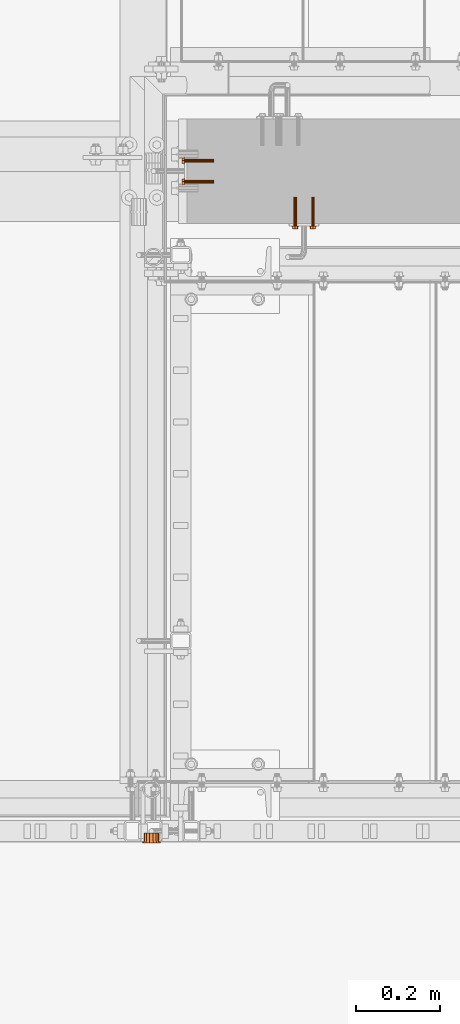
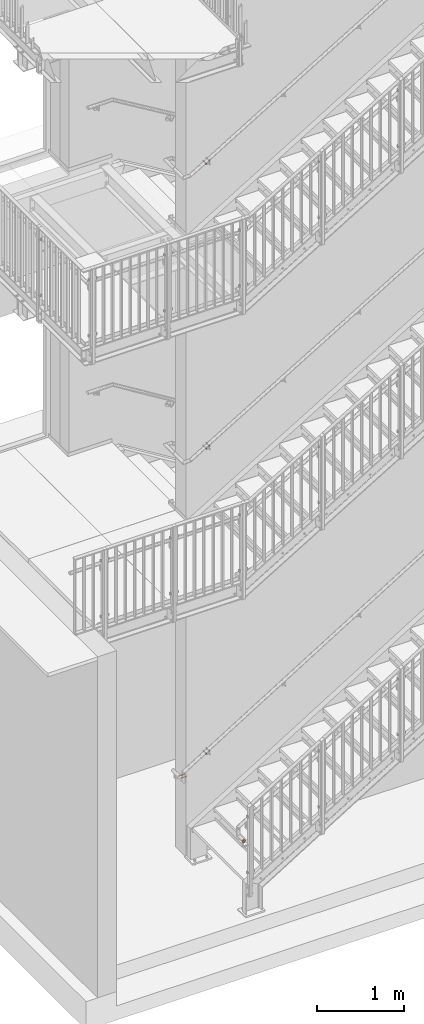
# One storey, part 400 of 410: 9 proxies.
"""IFC2X3 building model written with IfcOpenShell, lengths in millimetres."""

import ifcopenshell
import ifcopenshell.guid

model = None  # the IFC model being written
_history = None  # IfcOwnerHistory: only IFC2X3 demands one
_inside = {}  # id of a spatial element -> (the spatial element, [elements in it])
_under = {}  # id of a project, library or spatial element -> (it, [spatial elements below it])
_declared = {}  # id of a project -> (the project, [libraries it declares])
_typed = {}  # id of a type object -> (the type object, [elements of that type])
_made_of = {}  # id of a material, layer set ... -> (it, [elements and type objects made of it])


def new_model(schema):
    """Start an empty IFC model of exactly this schema.

    Asked for "IFC4X3", IfcOpenShell would pick the latest addendum, in which some entities
    have other attributes; the version numbers below select the first issue.
    IFC2X3 requires an IfcOwnerHistory on every rooted entity: one is made here for all.
    """
    global model, _history
    if schema == "IFC4X3":
        model = ifcopenshell.file(schema_version=(4, 3, 0, 0))
    else:
        model = ifcopenshell.file(schema=schema)
    _inside.clear()
    _under.clear()
    _declared.clear()
    _typed.clear()
    _made_of.clear()
    _history = None
    if model.schema == "IFC2X3":
        org = make("IfcOrganization", Name="unknown")
        user = make(
            "IfcPersonAndOrganization",
            ThePerson=make("IfcPerson", FamilyName="unknown"),
            TheOrganization=org,
        )
        app = make(
            "IfcApplication",
            ApplicationDeveloper=org,
            Version="unknown",
            ApplicationFullName="unknown",
            ApplicationIdentifier="unknown",
        )
        _history = make(
            "IfcOwnerHistory",
            OwningUser=user,
            OwningApplication=app,
            ChangeAction="ADDED",
            CreationDate=0,
        )
    return model


def make(cls, **values):
    """One entity of the class cls with the attributes given. An attribute that is None is left unset."""
    return model.create_entity(
        cls, **{name: value for name, value in values.items() if value is not None}
    )


def entity(cls, *values):
    """Any entity or typed value of the class cls, its attributes in the order of the schema. None: left unset."""
    e = model.create_entity(cls)
    for i, value in enumerate(values):
        if value is not None:
            e[i] = value
    return e


def rooted(cls, **values):
    """An entity with a GlobalId (a new one), such as an element, a storey or a relation."""
    return make(cls, GlobalId=ifcopenshell.guid.new(), OwnerHistory=_history, **values)


def si_unit(unit_type, name, prefix=None):
    """IfcSIUnit, for example si_unit("LENGTHUNIT", "METRE", prefix="MILLI")."""
    return make("IfcSIUnit", UnitType=unit_type, Prefix=prefix, Name=name)


def converted_unit(unit_type, name, factor, base, dimensions=None, offset=None):
    """IfcConversionBasedUnit, such as the inch: factor (a typed value) times the base unit."""
    return make(
        "IfcConversionBasedUnit"
        if offset is None
        else "IfcConversionBasedUnitWithOffset",
        ConversionOffset=offset,
        Dimensions=None
        if dimensions is None
        else entity("IfcDimensionalExponents", *dimensions),
        UnitType=unit_type,
        Name=name,
        ConversionFactor=make(
            "IfcMeasureWithUnit", ValueComponent=factor, UnitComponent=base
        ),
    )


def assignment(units):
    """IfcUnitAssignment: the units of a project."""
    return None if units is None else make("IfcUnitAssignment", Units=units)


def point(xyz):
    """IfcCartesianPoint."""
    return None if xyz is None else make("IfcCartesianPoint", Coordinates=xyz)


def direction(xyz):
    """IfcDirection."""
    return None if xyz is None else make("IfcDirection", DirectionRatios=xyz)


def frame(location, z_axis=None, x_axis=None):
    """IfcAxis2Placement3D, a coordinate frame: its origin and axes. An axis left out is left unset."""
    return make(
        "IfcAxis2Placement3D",
        Location=point(location),
        Axis=direction(z_axis),
        RefDirection=direction(x_axis),
    )


def origin_with_axes():
    """The frame at (0, 0, 0) with the z axis (0, 0, 1) and the x axis (1, 0, 0) written out."""
    return frame((0.0, 0.0, 0.0), z_axis=(0.0, 0.0, 1.0), x_axis=(1.0, 0.0, 0.0))


def place(relative_to, where):
    """IfcLocalPlacement: puts the frame where relative to a parent placement (None: the world)."""
    return make(
        "IfcLocalPlacement", PlacementRelTo=relative_to, RelativePlacement=where
    )


def context(
    kind, dimensions, precision=None, world=None, true_north=None, identifier=None
):
    """IfcGeometricRepresentationContext, for example the 3D "Model" context."""
    return make(
        "IfcGeometricRepresentationContext",
        ContextIdentifier=identifier,
        ContextType=kind,
        CoordinateSpaceDimension=dimensions,
        Precision=precision,
        WorldCoordinateSystem=world,
        TrueNorth=true_north,
    )


def project(units=None, contexts=None):
    """IfcProject with its units and contexts."""
    return rooted(
        "IfcProject",
        Name="project",
        RepresentationContexts=contexts,
        UnitsInContext=assignment(units),
    )


def spatial(cls, under=None, at=None, **own):
    """A site, building, storey or space (cls), placed at a placement, below another one or the project."""
    s = rooted(cls, ObjectPlacement=at, **own)
    if under is not None:
        _under.setdefault(under.id(), (under, []))[1].append(s)
    return s


def faces_of(points, faces, orient=None, outer=None):
    """IfcFace entities. A face is a list of loops; a loop is a list of indices into points, from 0.

    orient and outer hold one flag for each loop. By default every Orientation is true, the
    first loop of a face is its IfcFaceOuterBound and the others are IfcFaceBound.
    """
    made = []
    for i, loops in enumerate(faces):
        bounds = []
        for j, loop in enumerate(loops):
            is_outer = j == 0 if outer is None else outer[i][j]
            bounds.append(
                make(
                    "IfcFaceOuterBound" if is_outer else "IfcFaceBound",
                    Bound=make("IfcPolyLoop", Polygon=[points[k] for k in loop]),
                    Orientation=True if orient is None else orient[i][j],
                )
            )
        made.append(make("IfcFace", Bounds=bounds))
    return made


def faceted_brep(points, faces, orient=None, outer=None, voids=None):
    """IfcFacetedBrep: a solid bounded by flat faces; with voids (closed shells), ...WithVoids."""
    shared = [point(p) for p in points]
    hull = make("IfcClosedShell", CfsFaces=faces_of(shared, faces, orient, outer))
    if voids is None:
        return make("IfcFacetedBrep", Outer=hull)
    return make(
        "IfcFacetedBrepWithVoids",
        Outer=hull,
        Voids=[
            make(cls, CfsFaces=faces_of(shared, fs, o, b)) for cls, fs, o, b in voids
        ],
    )


def shape(context_of_items, identifier, shape_type, items):
    """IfcShapeRepresentation: the items that make up one representation, for example the "Body"."""
    return make(
        "IfcShapeRepresentation",
        ContextOfItems=context_of_items,
        RepresentationIdentifier=identifier,
        RepresentationType=shape_type,
        Items=items,
    )


def made_of(thing, what):
    """Note that an element or type object is made of a material, layer set ...; save() writes the relation."""
    if what is not None:
        _made_of.setdefault(what.id(), (what, []))[1].append(thing)
    return thing


def element(
    cls,
    number,
    at=None,
    inside=None,
    cuts=None,
    type_object=None,
    material=None,
    context=None,
    identifier="Body",
    shape_type=None,
    held_by="IfcProductDefinitionShape",
    body=None,
    shapes=None,
    **own,
):
    """One element of the class cls, such as IfcWall. Its Tag is "e" and its number.

    at: its placement. inside: the storey or other place that contains it. cuts: it is an
    opening in that element (IfcRelVoidsElement). A single representation is given by context,
    identifier, shape_type and body (its items); several are given by shapes. held_by: the class
    of the entity that holds the representations. save() writes the other relations.
    """
    e = rooted(cls, Tag="e%d" % number, ObjectPlacement=at, **own)
    if body is not None:
        shapes = [shape(context, identifier, shape_type, body)]
    if shapes is not None:
        e.Representation = make(held_by, Representations=shapes)
    if inside is not None:
        _inside.setdefault(inside.id(), (inside, []))[1].append(e)
    if cuts is not None:
        rooted(
            "IfcRelVoidsElement", RelatingBuildingElement=cuts, RelatedOpeningElement=e
        )
    if type_object is not None:
        _typed.setdefault(type_object.id(), (type_object, []))[1].append(e)
    return made_of(e, material)


def aggregate(whole, parts):
    """IfcRelAggregates: a whole, such as a stair, and the parts it consists of."""
    return rooted("IfcRelAggregates", RelatingObject=whole, RelatedObjects=parts)


def save(model, path):
    """Write the relations noted so far, then the file.

    IfcRelAggregates (storeys below a building ...), IfcRelContainedInSpatialStructure (elements
    in a storey), IfcRelDefinesByType, IfcRelAssociatesMaterial and IfcRelDeclares: one each for
    every whole, place, type object, material and project.
    """
    for whole, parts in _under.values():
        aggregate(whole, parts)
    for where, things in _inside.values():
        rooted(
            "IfcRelContainedInSpatialStructure",
            RelatedElements=things,
            RelatingStructure=where,
        )
    for kind, things in _typed.values():
        rooted("IfcRelDefinesByType", RelatedObjects=things, RelatingType=kind)
    for what, things in _made_of.values():
        rooted("IfcRelAssociatesMaterial", RelatedObjects=things, RelatingMaterial=what)
    for by, libraries in _declared.values():
        rooted("IfcRelDeclares", RelatingContext=by, RelatedDefinitions=libraries)
    model.write(path)


model = new_model("IFC2X3")

# Units and contexts
model_context = context("Model", 3, precision=1e-09, world=origin_with_axes())
ifc_project = project(units=[si_unit("LENGTHUNIT", "METRE", prefix="MILLI"), si_unit("AREAUNIT", "SQUARE_METRE"), si_unit("VOLUMEUNIT", "CUBIC_METRE"), converted_unit("PLANEANGLEUNIT", "DEGREE", entity("IfcPlaneAngleMeasure", 0.01745329), si_unit("PLANEANGLEUNIT", "RADIAN"), dimensions=[0, 0, 0, 0, 0, 0, 0])], contexts=[model_context])

# Site, building, storey
site_placement = place(None, origin_with_axes())
site = spatial("IfcSite", under=ifc_project, at=site_placement, Name="mKR Teilneubau & Sanierung BA1 - Ostfildern", CompositionType="ELEMENT")
building_placement = place(site_placement, origin_with_axes())
building = spatial("IfcBuilding", under=site, at=building_placement, Name="Struktur 1", CompositionType="ELEMENT")
storey_placement = place(building_placement, origin_with_axes())
storey = spatial("IfcBuildingStorey", under=building, at=storey_placement, Name="Default Storey", CompositionType="ELEMENT", Elevation=0.0)

# Proxies
proxy_1_placement = place(None, origin_with_axes())
element("IfcBuildingElementProxy", 1, at=proxy_1_placement, inside=storey, ObjectType="-", context=model_context, shape_type="Brep", body=[
    faceted_brep([(-1396.345435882, 16847.5, 4894.00828223), (-1396.345435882, 16849.0, 4894.00828223), (-1397.48421995, 16849.0, 4898.25828223), (-1397.48421995, 16847.5, 4898.25828223), (-1397.48421995, 16847.5, 4889.75828223), (-1397.48421995, 16849.0, 4889.75828223), (-1409.095435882, 16849.0, 4886.647066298), (-1412.206651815, 16849.0, 4889.75828223), (-1413.345435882, 16849.0, 4894.00828223), (-1412.206651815, 16849.0, 4898.25828223), (-1409.095435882, 16849.0, 4901.369498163), (-1404.845435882, 16849.0, 4902.50828223), (-1400.595435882, 16849.0, 4901.369498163), (-1400.595435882, 16849.0, 4886.647066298), (-1404.845435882, 16849.0, 4885.50828223), (-1409.095435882, 16847.5, 4901.369498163), (-1412.206651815, 16847.5, 4898.25828223), (-1413.345435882, 16847.5, 4894.00828223), (-1412.206651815, 16847.5, 4889.75828223), (-1409.095435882, 16847.5, 4886.647066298), (-1404.845435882, 16847.5, 4885.50828223), (-1400.595435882, 16847.5, 4886.647066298), (-1400.595435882, 16847.5, 4901.369498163), (-1404.845435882, 16847.5, 4902.50828223)], [[[0, 1, 2, 3]], [[1, 0, 4, 5]], [[6, 7, 8, 9, 10, 11, 12, 2, 1, 5, 13, 14]], [[15, 16, 17, 18, 19, 20, 21, 4, 0, 3, 22, 23]], [[3, 2, 12, 22]], [[5, 4, 21, 13]], [[22, 12, 11, 23]], [[13, 21, 20, 14]], [[23, 11, 10, 15]], [[14, 20, 19, 6]], [[15, 10, 9, 16]], [[6, 19, 18, 7]], [[7, 18, 17, 8]], [[16, 9, 8, 17]]]),
    faceted_brep([(-1401.070435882, 16919.0, 4894.00828223), (-1401.070435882, 16849.0, 4894.00828223), (-1401.576189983, 16849.0, 4892.12078223), (-1401.576189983, 16919.0, 4892.12078223), (-1401.576189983, 16919.0, 4895.89578223), (-1401.576189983, 16849.0, 4895.89578223), (-1406.732935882, 16849.0, 4897.27752813), (-1408.114681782, 16849.0, 4895.89578223), (-1408.620435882, 16849.0, 4894.00828223), (-1408.114681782, 16849.0, 4892.12078223), (-1406.732935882, 16849.0, 4890.739036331), (-1404.845435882, 16849.0, 4890.23328223), (-1402.957935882, 16849.0, 4890.739036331), (-1402.957935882, 16849.0, 4897.27752813), (-1404.845435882, 16849.0, 4897.78328223), (-1406.732935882, 16919.0, 4890.739036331), (-1408.114681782, 16919.0, 4892.12078223), (-1408.620435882, 16919.0, 4894.00828223), (-1408.114681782, 16919.0, 4895.89578223), (-1406.732935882, 16919.0, 4897.27752813), (-1404.845435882, 16919.0, 4897.78328223), (-1402.957935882, 16919.0, 4897.27752813), (-1402.957935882, 16919.0, 4890.739036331), (-1404.845435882, 16919.0, 4890.23328223)], [[[0, 1, 2, 3]], [[1, 0, 4, 5]], [[6, 7, 8, 9, 10, 11, 12, 2, 1, 5, 13, 14]], [[15, 16, 17, 18, 19, 20, 21, 4, 0, 3, 22, 23]], [[3, 2, 12, 22]], [[5, 4, 21, 13]], [[22, 12, 11, 23]], [[13, 21, 20, 14]], [[23, 11, 10, 15]], [[14, 20, 19, 6]], [[15, 10, 9, 16]], [[6, 19, 18, 7]], [[7, 18, 17, 8]], [[16, 9, 8, 17]]]),
    faceted_brep([(-1398.618713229, 16847.5, 4890.41328223), (-1398.618713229, 16847.5, 4897.60328223), (-1398.618713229, 16842.5, 4897.60328223), (-1398.618713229, 16842.5, 4890.41328223), (-1404.845435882, 16842.5, 4886.81828223), (-1404.845435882, 16847.5, 4886.81828223), (-1411.072158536, 16842.5, 4890.41328223), (-1411.072158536, 16847.5, 4890.41328223), (-1404.845435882, 16842.5, 4901.19828223), (-1411.072158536, 16842.5, 4897.60328223), (-1411.072158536, 16847.5, 4897.60328223), (-1404.845435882, 16847.5, 4901.19828223)], [[[0, 1, 2, 3]], [[3, 4, 5, 0]], [[4, 6, 7, 5]], [[2, 8, 9, 6, 4, 3]], [[0, 5, 7, 10, 11, 1]], [[6, 9, 10, 7]], [[1, 11, 8, 2]], [[9, 8, 11, 10]]]),
])
proxy_2_placement = place(None, origin_with_axes())
element("IfcBuildingElementProxy", 2, at=proxy_2_placement, inside=storey, ObjectType="-", context=model_context, shape_type="Brep", body=[
    faceted_brep([(-1439.154818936, 16847.5, 4868.175033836), (-1439.154818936, 16849.0, 4868.175033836), (-1440.293603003, 16849.0, 4872.425033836), (-1440.293603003, 16847.5, 4872.425033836), (-1440.293603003, 16847.5, 4863.925033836), (-1440.293603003, 16849.0, 4863.925033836), (-1451.904818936, 16849.0, 4860.813817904), (-1455.016034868, 16849.0, 4863.925033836), (-1456.154818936, 16849.0, 4868.175033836), (-1455.016034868, 16849.0, 4872.425033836), (-1451.904818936, 16849.0, 4875.536249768), (-1447.654818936, 16849.0, 4876.675033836), (-1443.404818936, 16849.0, 4875.536249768), (-1443.404818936, 16849.0, 4860.813817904), (-1447.654818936, 16849.0, 4859.675033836), (-1451.904818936, 16847.5, 4875.536249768), (-1455.016034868, 16847.5, 4872.425033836), (-1456.154818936, 16847.5, 4868.175033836), (-1455.016034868, 16847.5, 4863.925033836), (-1451.904818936, 16847.5, 4860.813817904), (-1447.654818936, 16847.5, 4859.675033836), (-1443.404818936, 16847.5, 4860.813817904), (-1443.404818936, 16847.5, 4875.536249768), (-1447.654818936, 16847.5, 4876.675033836)], [[[0, 1, 2, 3]], [[1, 0, 4, 5]], [[6, 7, 8, 9, 10, 11, 12, 2, 1, 5, 13, 14]], [[15, 16, 17, 18, 19, 20, 21, 4, 0, 3, 22, 23]], [[3, 2, 12, 22]], [[5, 4, 21, 13]], [[22, 12, 11, 23]], [[13, 21, 20, 14]], [[23, 11, 10, 15]], [[14, 20, 19, 6]], [[15, 10, 9, 16]], [[6, 19, 18, 7]], [[7, 18, 17, 8]], [[16, 9, 8, 17]]]),
    faceted_brep([(-1443.879818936, 16919.0, 4868.175033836), (-1443.879818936, 16849.0, 4868.175033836), (-1444.385573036, 16849.0, 4866.287533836), (-1444.385573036, 16919.0, 4866.287533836), (-1444.385573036, 16919.0, 4870.062533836), (-1444.385573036, 16849.0, 4870.062533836), (-1449.542318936, 16849.0, 4871.444279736), (-1450.924064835, 16849.0, 4870.062533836), (-1451.429818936, 16849.0, 4868.175033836), (-1450.924064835, 16849.0, 4866.287533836), (-1449.542318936, 16849.0, 4864.905787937), (-1447.654818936, 16849.0, 4864.400033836), (-1445.767318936, 16849.0, 4864.905787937), (-1445.767318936, 16849.0, 4871.444279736), (-1447.654818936, 16849.0, 4871.950033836), (-1449.542318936, 16919.0, 4864.905787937), (-1450.924064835, 16919.0, 4866.287533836), (-1451.429818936, 16919.0, 4868.175033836), (-1450.924064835, 16919.0, 4870.062533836), (-1449.542318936, 16919.0, 4871.444279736), (-1447.654818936, 16919.0, 4871.950033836), (-1445.767318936, 16919.0, 4871.444279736), (-1445.767318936, 16919.0, 4864.905787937), (-1447.654818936, 16919.0, 4864.400033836)], [[[0, 1, 2, 3]], [[1, 0, 4, 5]], [[6, 7, 8, 9, 10, 11, 12, 2, 1, 5, 13, 14]], [[15, 16, 17, 18, 19, 20, 21, 4, 0, 3, 22, 23]], [[3, 2, 12, 22]], [[5, 4, 21, 13]], [[22, 12, 11, 23]], [[13, 21, 20, 14]], [[23, 11, 10, 15]], [[14, 20, 19, 6]], [[15, 10, 9, 16]], [[6, 19, 18, 7]], [[7, 18, 17, 8]], [[16, 9, 8, 17]]]),
    faceted_brep([(-1441.428096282, 16847.5, 4864.580033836), (-1441.428096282, 16847.5, 4871.770033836), (-1441.428096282, 16842.5, 4871.770033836), (-1441.428096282, 16842.5, 4864.580033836), (-1447.654818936, 16842.5, 4860.985033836), (-1447.654818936, 16847.5, 4860.985033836), (-1453.881541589, 16842.5, 4864.580033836), (-1453.881541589, 16847.5, 4864.580033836), (-1447.654818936, 16842.5, 4875.365033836), (-1453.881541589, 16842.5, 4871.770033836), (-1453.881541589, 16847.5, 4871.770033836), (-1447.654818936, 16847.5, 4875.365033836)], [[[0, 1, 2, 3]], [[3, 4, 5, 0]], [[4, 6, 7, 5]], [[2, 8, 9, 6, 4, 3]], [[0, 5, 7, 10, 11, 1]], [[6, 9, 10, 7]], [[1, 11, 8, 2]], [[9, 8, 11, 10]]]),
])
proxy_3_placement = place(None, origin_with_axes())
element("IfcBuildingElementProxy", 3, at=proxy_3_placement, inside=storey, ObjectType="-", context=model_context, shape_type="Brep", body=[
    faceted_brep([(-1396.486841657, 16847.5, 893.025293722), (-1396.486841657, 16849.0, 893.025293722), (-1397.625625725, 16849.0, 897.275293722), (-1397.625625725, 16847.5, 897.275293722), (-1397.625625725, 16847.5, 888.775293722), (-1397.625625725, 16849.0, 888.775293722), (-1409.236841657, 16849.0, 885.66407779), (-1412.348057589, 16849.0, 888.775293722), (-1413.486841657, 16849.0, 893.025293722), (-1412.348057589, 16849.0, 897.275293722), (-1409.236841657, 16849.0, 900.386509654), (-1404.986841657, 16849.0, 901.525293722), (-1400.736841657, 16849.0, 900.386509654), (-1400.736841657, 16849.0, 885.66407779), (-1404.986841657, 16849.0, 884.525293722), (-1409.236841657, 16847.5, 900.386509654), (-1412.348057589, 16847.5, 897.275293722), (-1413.486841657, 16847.5, 893.025293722), (-1412.348057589, 16847.5, 888.775293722), (-1409.236841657, 16847.5, 885.66407779), (-1404.986841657, 16847.5, 884.525293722), (-1400.736841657, 16847.5, 885.66407779), (-1400.736841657, 16847.5, 900.386509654), (-1404.986841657, 16847.5, 901.525293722)], [[[0, 1, 2, 3]], [[1, 0, 4, 5]], [[6, 7, 8, 9, 10, 11, 12, 2, 1, 5, 13, 14]], [[15, 16, 17, 18, 19, 20, 21, 4, 0, 3, 22, 23]], [[3, 2, 12, 22]], [[5, 4, 21, 13]], [[22, 12, 11, 23]], [[13, 21, 20, 14]], [[23, 11, 10, 15]], [[14, 20, 19, 6]], [[15, 10, 9, 16]], [[6, 19, 18, 7]], [[7, 18, 17, 8]], [[16, 9, 8, 17]]]),
    faceted_brep([(-1401.211841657, 16919.0, 893.025293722), (-1401.211841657, 16849.0, 893.025293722), (-1401.717595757, 16849.0, 891.137793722), (-1401.717595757, 16919.0, 891.137793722), (-1401.717595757, 16919.0, 894.912793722), (-1401.717595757, 16849.0, 894.912793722), (-1406.874341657, 16849.0, 896.294539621), (-1408.256087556, 16849.0, 894.912793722), (-1408.761841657, 16849.0, 893.025293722), (-1408.256087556, 16849.0, 891.137793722), (-1406.874341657, 16849.0, 889.756047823), (-1404.986841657, 16849.0, 889.250293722), (-1403.099341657, 16849.0, 889.756047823), (-1403.099341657, 16849.0, 896.294539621), (-1404.986841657, 16849.0, 896.800293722), (-1406.874341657, 16919.0, 889.756047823), (-1408.256087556, 16919.0, 891.137793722), (-1408.761841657, 16919.0, 893.025293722), (-1408.256087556, 16919.0, 894.912793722), (-1406.874341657, 16919.0, 896.294539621), (-1404.986841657, 16919.0, 896.800293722), (-1403.099341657, 16919.0, 896.294539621), (-1403.099341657, 16919.0, 889.756047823), (-1404.986841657, 16919.0, 889.250293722)], [[[0, 1, 2, 3]], [[1, 0, 4, 5]], [[6, 7, 8, 9, 10, 11, 12, 2, 1, 5, 13, 14]], [[15, 16, 17, 18, 19, 20, 21, 4, 0, 3, 22, 23]], [[3, 2, 12, 22]], [[5, 4, 21, 13]], [[22, 12, 11, 23]], [[13, 21, 20, 14]], [[23, 11, 10, 15]], [[14, 20, 19, 6]], [[15, 10, 9, 16]], [[6, 19, 18, 7]], [[7, 18, 17, 8]], [[16, 9, 8, 17]]]),
    faceted_brep([(-1398.760119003, 16847.5, 889.430293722), (-1398.760119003, 16847.5, 896.620293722), (-1398.760119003, 16842.5, 896.620293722), (-1398.760119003, 16842.5, 889.430293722), (-1404.986841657, 16842.5, 885.835293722), (-1404.986841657, 16847.5, 885.835293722), (-1411.21356431, 16842.5, 889.430293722), (-1411.21356431, 16847.5, 889.430293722), (-1404.986841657, 16842.5, 900.215293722), (-1411.21356431, 16842.5, 896.620293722), (-1411.21356431, 16847.5, 896.620293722), (-1404.986841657, 16847.5, 900.215293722)], [[[0, 1, 2, 3]], [[3, 4, 5, 0]], [[4, 6, 7, 5]], [[2, 8, 9, 6, 4, 3]], [[0, 5, 7, 10, 11, 1]], [[6, 9, 10, 7]], [[1, 11, 8, 2]], [[9, 8, 11, 10]]]),
])
proxy_4_placement = place(None, origin_with_axes())
element("IfcBuildingElementProxy", 4, at=proxy_4_placement, inside=storey, ObjectType="-", context=model_context, shape_type="Brep", body=[
    faceted_brep([(-1439.367159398, 16847.5, 867.30996074), (-1439.367159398, 16849.0, 867.30996074), (-1440.505943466, 16849.0, 871.55996074), (-1440.505943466, 16847.5, 871.55996074), (-1440.505943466, 16847.5, 863.05996074), (-1440.505943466, 16849.0, 863.05996074), (-1452.117159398, 16849.0, 859.948744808), (-1455.228375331, 16849.0, 863.05996074), (-1456.367159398, 16849.0, 867.30996074), (-1455.228375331, 16849.0, 871.55996074), (-1452.117159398, 16849.0, 874.671176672), (-1447.867159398, 16849.0, 875.80996074), (-1443.617159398, 16849.0, 874.671176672), (-1443.617159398, 16849.0, 859.948744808), (-1447.867159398, 16849.0, 858.80996074), (-1452.117159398, 16847.5, 874.671176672), (-1455.228375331, 16847.5, 871.55996074), (-1456.367159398, 16847.5, 867.30996074), (-1455.228375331, 16847.5, 863.05996074), (-1452.117159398, 16847.5, 859.948744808), (-1447.867159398, 16847.5, 858.80996074), (-1443.617159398, 16847.5, 859.948744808), (-1443.617159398, 16847.5, 874.671176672), (-1447.867159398, 16847.5, 875.80996074)], [[[0, 1, 2, 3]], [[1, 0, 4, 5]], [[6, 7, 8, 9, 10, 11, 12, 2, 1, 5, 13, 14]], [[15, 16, 17, 18, 19, 20, 21, 4, 0, 3, 22, 23]], [[3, 2, 12, 22]], [[5, 4, 21, 13]], [[22, 12, 11, 23]], [[13, 21, 20, 14]], [[23, 11, 10, 15]], [[14, 20, 19, 6]], [[15, 10, 9, 16]], [[6, 19, 18, 7]], [[7, 18, 17, 8]], [[16, 9, 8, 17]]]),
    faceted_brep([(-1444.092159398, 16919.0, 867.30996074), (-1444.092159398, 16849.0, 867.30996074), (-1444.597913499, 16849.0, 865.42246074), (-1444.597913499, 16919.0, 865.42246074), (-1444.597913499, 16919.0, 869.19746074), (-1444.597913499, 16849.0, 869.19746074), (-1449.754659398, 16849.0, 870.579206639), (-1451.136405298, 16849.0, 869.19746074), (-1451.642159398, 16849.0, 867.30996074), (-1451.136405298, 16849.0, 865.42246074), (-1449.754659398, 16849.0, 864.040714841), (-1447.867159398, 16849.0, 863.53496074), (-1445.979659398, 16849.0, 864.040714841), (-1445.979659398, 16849.0, 870.579206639), (-1447.867159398, 16849.0, 871.08496074), (-1449.754659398, 16919.0, 864.040714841), (-1451.136405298, 16919.0, 865.42246074), (-1451.642159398, 16919.0, 867.30996074), (-1451.136405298, 16919.0, 869.19746074), (-1449.754659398, 16919.0, 870.579206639), (-1447.867159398, 16919.0, 871.08496074), (-1445.979659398, 16919.0, 870.579206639), (-1445.979659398, 16919.0, 864.040714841), (-1447.867159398, 16919.0, 863.53496074)], [[[0, 1, 2, 3]], [[1, 0, 4, 5]], [[6, 7, 8, 9, 10, 11, 12, 2, 1, 5, 13, 14]], [[15, 16, 17, 18, 19, 20, 21, 4, 0, 3, 22, 23]], [[3, 2, 12, 22]], [[5, 4, 21, 13]], [[22, 12, 11, 23]], [[13, 21, 20, 14]], [[23, 11, 10, 15]], [[14, 20, 19, 6]], [[15, 10, 9, 16]], [[6, 19, 18, 7]], [[7, 18, 17, 8]], [[16, 9, 8, 17]]]),
    faceted_brep([(-1441.640436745, 16847.5, 863.71496074), (-1441.640436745, 16847.5, 870.90496074), (-1441.640436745, 16842.5, 870.90496074), (-1441.640436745, 16842.5, 863.71496074), (-1447.867159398, 16842.5, 860.11996074), (-1447.867159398, 16847.5, 860.11996074), (-1454.093882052, 16842.5, 863.71496074), (-1454.093882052, 16847.5, 863.71496074), (-1447.867159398, 16842.5, 874.49996074), (-1454.093882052, 16842.5, 870.90496074), (-1454.093882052, 16847.5, 870.90496074), (-1447.867159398, 16847.5, 874.49996074)], [[[0, 1, 2, 3]], [[3, 4, 5, 0]], [[4, 6, 7, 5]], [[2, 8, 9, 6, 4, 3]], [[0, 5, 7, 10, 11, 1]], [[6, 9, 10, 7]], [[1, 11, 8, 2]], [[9, 8, 11, 10]]]),
])
proxy_5_placement = place(None, origin_with_axes())
element("IfcBuildingElementProxy", 5, at=proxy_5_placement, inside=storey, ObjectType="-", context=model_context, shape_type="Brep", body=[
    faceted_brep([(-1395.858299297, 16847.5, -3393.759411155), (-1395.858299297, 16849.0, -3393.759411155), (-1396.997083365, 16849.0, -3389.509411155), (-1396.997083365, 16847.5, -3389.509411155), (-1396.997083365, 16847.5, -3398.009411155), (-1396.997083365, 16849.0, -3398.009411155), (-1408.608299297, 16849.0, -3401.120627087), (-1411.719515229, 16849.0, -3398.009411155), (-1412.858299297, 16849.0, -3393.759411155), (-1411.719515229, 16849.0, -3389.509411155), (-1408.608299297, 16849.0, -3386.398195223), (-1404.358299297, 16849.0, -3385.259411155), (-1400.108299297, 16849.0, -3386.398195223), (-1400.108299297, 16849.0, -3401.120627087), (-1404.358299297, 16849.0, -3402.259411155), (-1408.608299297, 16847.5, -3386.398195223), (-1411.719515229, 16847.5, -3389.509411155), (-1412.858299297, 16847.5, -3393.759411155), (-1411.719515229, 16847.5, -3398.009411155), (-1408.608299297, 16847.5, -3401.120627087), (-1404.358299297, 16847.5, -3402.259411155), (-1400.108299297, 16847.5, -3401.120627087), (-1400.108299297, 16847.5, -3386.398195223), (-1404.358299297, 16847.5, -3385.259411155)], [[[0, 1, 2, 3]], [[1, 0, 4, 5]], [[6, 7, 8, 9, 10, 11, 12, 2, 1, 5, 13, 14]], [[15, 16, 17, 18, 19, 20, 21, 4, 0, 3, 22, 23]], [[3, 2, 12, 22]], [[5, 4, 21, 13]], [[22, 12, 11, 23]], [[13, 21, 20, 14]], [[23, 11, 10, 15]], [[14, 20, 19, 6]], [[15, 10, 9, 16]], [[6, 19, 18, 7]], [[7, 18, 17, 8]], [[16, 9, 8, 17]]]),
    faceted_brep([(-1400.583299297, 16919.0, -3393.759411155), (-1400.583299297, 16849.0, -3393.759411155), (-1401.089053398, 16849.0, -3395.646911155), (-1401.089053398, 16919.0, -3395.646911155), (-1401.089053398, 16919.0, -3391.871911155), (-1401.089053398, 16849.0, -3391.871911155), (-1406.245799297, 16849.0, -3390.490165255), (-1407.627545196, 16849.0, -3391.871911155), (-1408.133299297, 16849.0, -3393.759411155), (-1407.627545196, 16849.0, -3395.646911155), (-1406.245799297, 16849.0, -3397.028657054), (-1404.358299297, 16849.0, -3397.534411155), (-1402.470799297, 16849.0, -3397.028657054), (-1402.470799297, 16849.0, -3390.490165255), (-1404.358299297, 16849.0, -3389.984411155), (-1406.245799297, 16919.0, -3397.028657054), (-1407.627545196, 16919.0, -3395.646911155), (-1408.133299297, 16919.0, -3393.759411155), (-1407.627545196, 16919.0, -3391.871911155), (-1406.245799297, 16919.0, -3390.490165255), (-1404.358299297, 16919.0, -3389.984411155), (-1402.470799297, 16919.0, -3390.490165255), (-1402.470799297, 16919.0, -3397.028657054), (-1404.358299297, 16919.0, -3397.534411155)], [[[0, 1, 2, 3]], [[1, 0, 4, 5]], [[6, 7, 8, 9, 10, 11, 12, 2, 1, 5, 13, 14]], [[15, 16, 17, 18, 19, 20, 21, 4, 0, 3, 22, 23]], [[3, 2, 12, 22]], [[5, 4, 21, 13]], [[22, 12, 11, 23]], [[13, 21, 20, 14]], [[23, 11, 10, 15]], [[14, 20, 19, 6]], [[15, 10, 9, 16]], [[6, 19, 18, 7]], [[7, 18, 17, 8]], [[16, 9, 8, 17]]]),
    faceted_brep([(-1398.131576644, 16847.5, -3397.354411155), (-1398.131576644, 16847.5, -3390.164411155), (-1398.131576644, 16842.5, -3390.164411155), (-1398.131576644, 16842.5, -3397.354411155), (-1404.358299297, 16842.5, -3400.949411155), (-1404.358299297, 16847.5, -3400.949411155), (-1410.58502195, 16842.5, -3397.354411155), (-1410.58502195, 16847.5, -3397.354411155), (-1404.358299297, 16842.5, -3386.569411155), (-1410.58502195, 16842.5, -3390.164411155), (-1410.58502195, 16847.5, -3390.164411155), (-1404.358299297, 16847.5, -3386.569411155)], [[[0, 1, 2, 3]], [[3, 4, 5, 0]], [[4, 6, 7, 5]], [[2, 8, 9, 6, 4, 3]], [[0, 5, 7, 10, 11, 1]], [[6, 9, 10, 7]], [[1, 11, 8, 2]], [[9, 8, 11, 10]]]),
])
proxy_6_placement = place(None, origin_with_axes())
element("IfcBuildingElementProxy", 6, at=proxy_6_placement, inside=storey, ObjectType="-", context=model_context, shape_type="Brep", body=[
    faceted_brep([(-1438.419028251, 16847.5, -3420.000301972), (-1438.419028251, 16849.0, -3420.000301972), (-1439.557812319, 16849.0, -3415.750301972), (-1439.557812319, 16847.5, -3415.750301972), (-1439.557812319, 16847.5, -3424.250301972), (-1439.557812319, 16849.0, -3424.250301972), (-1451.169028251, 16849.0, -3427.361517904), (-1454.280244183, 16849.0, -3424.250301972), (-1455.419028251, 16849.0, -3420.000301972), (-1454.280244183, 16849.0, -3415.750301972), (-1451.169028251, 16849.0, -3412.63908604), (-1446.919028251, 16849.0, -3411.500301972), (-1442.669028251, 16849.0, -3412.63908604), (-1442.669028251, 16849.0, -3427.361517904), (-1446.919028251, 16849.0, -3428.500301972), (-1451.169028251, 16847.5, -3412.63908604), (-1454.280244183, 16847.5, -3415.750301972), (-1455.419028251, 16847.5, -3420.000301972), (-1454.280244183, 16847.5, -3424.250301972), (-1451.169028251, 16847.5, -3427.361517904), (-1446.919028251, 16847.5, -3428.500301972), (-1442.669028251, 16847.5, -3427.361517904), (-1442.669028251, 16847.5, -3412.63908604), (-1446.919028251, 16847.5, -3411.500301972)], [[[0, 1, 2, 3]], [[1, 0, 4, 5]], [[6, 7, 8, 9, 10, 11, 12, 2, 1, 5, 13, 14]], [[15, 16, 17, 18, 19, 20, 21, 4, 0, 3, 22, 23]], [[3, 2, 12, 22]], [[5, 4, 21, 13]], [[22, 12, 11, 23]], [[13, 21, 20, 14]], [[23, 11, 10, 15]], [[14, 20, 19, 6]], [[15, 10, 9, 16]], [[6, 19, 18, 7]], [[7, 18, 17, 8]], [[16, 9, 8, 17]]]),
    faceted_brep([(-1443.144028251, 16919.0, -3420.000301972), (-1443.144028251, 16849.0, -3420.000301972), (-1443.649782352, 16849.0, -3421.887801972), (-1443.649782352, 16919.0, -3421.887801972), (-1443.649782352, 16919.0, -3418.112801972), (-1443.649782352, 16849.0, -3418.112801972), (-1448.806528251, 16849.0, -3416.731056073), (-1450.18827415, 16849.0, -3418.112801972), (-1450.694028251, 16849.0, -3420.000301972), (-1450.18827415, 16849.0, -3421.887801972), (-1448.806528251, 16849.0, -3423.269547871), (-1446.919028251, 16849.0, -3423.775301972), (-1445.031528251, 16849.0, -3423.269547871), (-1445.031528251, 16849.0, -3416.731056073), (-1446.919028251, 16849.0, -3416.225301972), (-1448.806528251, 16919.0, -3423.269547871), (-1450.18827415, 16919.0, -3421.887801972), (-1450.694028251, 16919.0, -3420.000301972), (-1450.18827415, 16919.0, -3418.112801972), (-1448.806528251, 16919.0, -3416.731056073), (-1446.919028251, 16919.0, -3416.225301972), (-1445.031528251, 16919.0, -3416.731056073), (-1445.031528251, 16919.0, -3423.269547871), (-1446.919028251, 16919.0, -3423.775301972)], [[[0, 1, 2, 3]], [[1, 0, 4, 5]], [[6, 7, 8, 9, 10, 11, 12, 2, 1, 5, 13, 14]], [[15, 16, 17, 18, 19, 20, 21, 4, 0, 3, 22, 23]], [[3, 2, 12, 22]], [[5, 4, 21, 13]], [[22, 12, 11, 23]], [[13, 21, 20, 14]], [[23, 11, 10, 15]], [[14, 20, 19, 6]], [[15, 10, 9, 16]], [[6, 19, 18, 7]], [[7, 18, 17, 8]], [[16, 9, 8, 17]]]),
    faceted_brep([(-1440.692305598, 16847.5, -3423.595301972), (-1440.692305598, 16847.5, -3416.405301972), (-1440.692305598, 16842.5, -3416.405301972), (-1440.692305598, 16842.5, -3423.595301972), (-1446.919028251, 16842.5, -3427.190301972), (-1446.919028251, 16847.5, -3427.190301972), (-1453.145750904, 16842.5, -3423.595301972), (-1453.145750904, 16847.5, -3423.595301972), (-1446.919028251, 16842.5, -3412.810301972), (-1453.145750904, 16842.5, -3416.405301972), (-1453.145750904, 16847.5, -3416.405301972), (-1446.919028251, 16847.5, -3412.810301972)], [[[0, 1, 2, 3]], [[3, 4, 5, 0]], [[4, 6, 7, 5]], [[2, 8, 9, 6, 4, 3]], [[0, 5, 7, 10, 11, 1]], [[6, 9, 10, 7]], [[1, 11, 8, 2]], [[9, 8, 11, 10]]]),
])
proxy_7_placement = place(None, origin_with_axes())
element("IfcBuildingElementProxy", 7, at=proxy_7_placement, inside=storey, ObjectType="-", context=model_context, shape_type="Brep", body=[
    faceted_brep([(-1712.5, 16946.5, -3737.4), (-1711.0, 16946.5, -3737.4), (-1711.0, 16947.638784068, -3733.15), (-1712.5, 16947.638784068, -3733.15), (-1712.5, 16947.638784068, -3741.65), (-1711.0, 16947.638784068, -3741.65), (-1711.0, 16959.25, -3744.761215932), (-1711.0, 16962.361215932, -3741.65), (-1711.0, 16963.5, -3737.4), (-1711.0, 16962.361215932, -3733.15), (-1711.0, 16959.25, -3730.038784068), (-1711.0, 16955.0, -3728.9), (-1711.0, 16950.75, -3730.038784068), (-1711.0, 16950.75, -3744.761215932), (-1711.0, 16955.0, -3745.9), (-1712.5, 16959.25, -3730.038784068), (-1712.5, 16962.361215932, -3733.15), (-1712.5, 16963.5, -3737.4), (-1712.5, 16962.361215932, -3741.65), (-1712.5, 16959.25, -3744.761215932), (-1712.5, 16955.0, -3745.9), (-1712.5, 16950.75, -3744.761215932), (-1712.5, 16950.75, -3730.038784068), (-1712.5, 16955.0, -3728.9)], [[[0, 1, 2, 3]], [[1, 0, 4, 5]], [[6, 7, 8, 9, 10, 11, 12, 2, 1, 5, 13, 14]], [[15, 16, 17, 18, 19, 20, 21, 4, 0, 3, 22, 23]], [[3, 2, 12, 22]], [[5, 4, 21, 13]], [[22, 12, 11, 23]], [[13, 21, 20, 14]], [[23, 11, 10, 15]], [[14, 20, 19, 6]], [[15, 10, 9, 16]], [[6, 19, 18, 7]], [[7, 18, 17, 8]], [[16, 9, 8, 17]]]),
    faceted_brep([(-1641.0, 16951.225, -3737.4), (-1711.0, 16951.225, -3737.4), (-1711.0, 16951.730754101, -3739.2875), (-1641.0, 16951.730754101, -3739.2875), (-1641.0, 16951.730754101, -3735.5125), (-1711.0, 16951.730754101, -3735.5125), (-1711.0, 16956.8875, -3734.130754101), (-1711.0, 16958.269245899, -3735.5125), (-1711.0, 16958.775, -3737.4), (-1711.0, 16958.269245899, -3739.2875), (-1711.0, 16956.8875, -3740.669245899), (-1711.0, 16955.0, -3741.175), (-1711.0, 16953.1125, -3740.669245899), (-1711.0, 16953.1125, -3734.130754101), (-1711.0, 16955.0, -3733.625), (-1641.0, 16956.8875, -3740.669245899), (-1641.0, 16958.269245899, -3739.2875), (-1641.0, 16958.775, -3737.4), (-1641.0, 16958.269245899, -3735.5125), (-1641.0, 16956.8875, -3734.130754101), (-1641.0, 16955.0, -3733.625), (-1641.0, 16953.1125, -3734.130754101), (-1641.0, 16953.1125, -3740.669245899), (-1641.0, 16955.0, -3741.175)], [[[0, 1, 2, 3]], [[1, 0, 4, 5]], [[6, 7, 8, 9, 10, 11, 12, 2, 1, 5, 13, 14]], [[15, 16, 17, 18, 19, 20, 21, 4, 0, 3, 22, 23]], [[3, 2, 12, 22]], [[5, 4, 21, 13]], [[22, 12, 11, 23]], [[13, 21, 20, 14]], [[23, 11, 10, 15]], [[14, 20, 19, 6]], [[15, 10, 9, 16]], [[6, 19, 18, 7]], [[7, 18, 17, 8]], [[16, 9, 8, 17]]]),
    faceted_brep([(-1712.5, 16948.773277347, -3740.995), (-1712.5, 16948.773277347, -3733.805), (-1717.5, 16948.773277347, -3733.805), (-1717.5, 16948.773277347, -3740.995), (-1717.5, 16955.0, -3744.59), (-1712.5, 16955.0, -3744.59), (-1717.5, 16961.226722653, -3740.995), (-1712.5, 16961.226722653, -3740.995), (-1717.5, 16955.0, -3730.21), (-1717.5, 16961.226722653, -3733.805), (-1712.5, 16961.226722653, -3733.805), (-1712.5, 16955.0, -3730.21)], [[[0, 1, 2, 3]], [[3, 4, 5, 0]], [[4, 6, 7, 5]], [[2, 8, 9, 6, 4, 3]], [[0, 5, 7, 10, 11, 1]], [[6, 9, 10, 7]], [[1, 11, 8, 2]], [[9, 8, 11, 10]]]),
])
proxy_8_placement = place(None, origin_with_axes())
element("IfcBuildingElementProxy", 8, at=proxy_8_placement, inside=storey, ObjectType="-", context=model_context, shape_type="Brep", body=[
    faceted_brep([(-1712.5, 16996.5, -3737.4), (-1711.0, 16996.5, -3737.4), (-1711.0, 16997.638784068, -3733.15), (-1712.5, 16997.638784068, -3733.15), (-1712.5, 16997.638784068, -3741.65), (-1711.0, 16997.638784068, -3741.65), (-1711.0, 17009.25, -3744.761215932), (-1711.0, 17012.361215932, -3741.65), (-1711.0, 17013.5, -3737.4), (-1711.0, 17012.361215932, -3733.15), (-1711.0, 17009.25, -3730.038784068), (-1711.0, 17005.0, -3728.9), (-1711.0, 17000.75, -3730.038784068), (-1711.0, 17000.75, -3744.761215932), (-1711.0, 17005.0, -3745.9), (-1712.5, 17009.25, -3730.038784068), (-1712.5, 17012.361215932, -3733.15), (-1712.5, 17013.5, -3737.4), (-1712.5, 17012.361215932, -3741.65), (-1712.5, 17009.25, -3744.761215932), (-1712.5, 17005.0, -3745.9), (-1712.5, 17000.75, -3744.761215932), (-1712.5, 17000.75, -3730.038784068), (-1712.5, 17005.0, -3728.9)], [[[0, 1, 2, 3]], [[1, 0, 4, 5]], [[6, 7, 8, 9, 10, 11, 12, 2, 1, 5, 13, 14]], [[15, 16, 17, 18, 19, 20, 21, 4, 0, 3, 22, 23]], [[3, 2, 12, 22]], [[5, 4, 21, 13]], [[22, 12, 11, 23]], [[13, 21, 20, 14]], [[23, 11, 10, 15]], [[14, 20, 19, 6]], [[15, 10, 9, 16]], [[6, 19, 18, 7]], [[7, 18, 17, 8]], [[16, 9, 8, 17]]]),
    faceted_brep([(-1641.0, 17001.225, -3737.4), (-1711.0, 17001.225, -3737.4), (-1711.0, 17001.730754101, -3739.2875), (-1641.0, 17001.730754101, -3739.2875), (-1641.0, 17001.730754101, -3735.5125), (-1711.0, 17001.730754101, -3735.5125), (-1711.0, 17006.8875, -3734.130754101), (-1711.0, 17008.269245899, -3735.5125), (-1711.0, 17008.775, -3737.4), (-1711.0, 17008.269245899, -3739.2875), (-1711.0, 17006.8875, -3740.669245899), (-1711.0, 17005.0, -3741.175), (-1711.0, 17003.1125, -3740.669245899), (-1711.0, 17003.1125, -3734.130754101), (-1711.0, 17005.0, -3733.625), (-1641.0, 17006.8875, -3740.669245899), (-1641.0, 17008.269245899, -3739.2875), (-1641.0, 17008.775, -3737.4), (-1641.0, 17008.269245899, -3735.5125), (-1641.0, 17006.8875, -3734.130754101), (-1641.0, 17005.0, -3733.625), (-1641.0, 17003.1125, -3734.130754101), (-1641.0, 17003.1125, -3740.669245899), (-1641.0, 17005.0, -3741.175)], [[[0, 1, 2, 3]], [[1, 0, 4, 5]], [[6, 7, 8, 9, 10, 11, 12, 2, 1, 5, 13, 14]], [[15, 16, 17, 18, 19, 20, 21, 4, 0, 3, 22, 23]], [[3, 2, 12, 22]], [[5, 4, 21, 13]], [[22, 12, 11, 23]], [[13, 21, 20, 14]], [[23, 11, 10, 15]], [[14, 20, 19, 6]], [[15, 10, 9, 16]], [[6, 19, 18, 7]], [[7, 18, 17, 8]], [[16, 9, 8, 17]]]),
    faceted_brep([(-1712.5, 16998.773277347, -3740.995), (-1712.5, 16998.773277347, -3733.805), (-1717.5, 16998.773277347, -3733.805), (-1717.5, 16998.773277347, -3740.995), (-1717.5, 17005.0, -3744.59), (-1712.5, 17005.0, -3744.59), (-1717.5, 17011.226722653, -3740.995), (-1712.5, 17011.226722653, -3740.995), (-1717.5, 17005.0, -3730.21), (-1717.5, 17011.226722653, -3733.805), (-1712.5, 17011.226722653, -3733.805), (-1712.5, 17005.0, -3730.21)], [[[0, 1, 2, 3]], [[3, 4, 5, 0]], [[4, 6, 7, 5]], [[2, 8, 9, 6, 4, 3]], [[0, 5, 7, 10, 11, 1]], [[6, 9, 10, 7]], [[1, 11, 8, 2]], [[9, 8, 11, 10]]]),
])
proxy_9_placement = place(None, origin_with_axes())
element("IfcBuildingElementProxy", 9, at=proxy_9_placement, inside=storey, ObjectType="-", context=model_context, shape_type="Brep", body=[
    faceted_brep([(-1785.59080374, 15377.999999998, -3620.463270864), (-1777.537484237, 15377.999999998, -3624.048839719), (-1777.537484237, 15380.999999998, -3624.048839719), (-1785.59080374, 15380.999999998, -3620.463270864), (-1802.459578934, 15380.999999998, -3624.048839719), (-1794.406259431, 15380.999999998, -3620.463270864), (-1771.638793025, 15380.999999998, -3630.6), (-1768.914667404, 15380.999999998, -3638.983996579), (-1769.83613344, 15380.999999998, -3647.751160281), (-1774.243861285, 15380.999999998, -3655.385568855), (-1781.375714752, 15380.999999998, -3660.567163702), (-1789.998531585, 15380.999999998, -3662.4), (-1798.621348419, 15380.999999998, -3660.567163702), (-1805.753201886, 15380.999999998, -3655.385568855), (-1810.160929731, 15380.999999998, -3647.751160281), (-1811.082395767, 15380.999999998, -3638.983996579), (-1808.358270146, 15380.999999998, -3630.6), (-1794.003908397, 15380.999999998, -3623.651297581), (-1801.221348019, 15380.999999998, -3627.127033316), (-1806.215971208, 15380.999999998, -3633.390092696), (-1807.998531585, 15380.999999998, -3641.2), (-1806.215971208, 15380.999999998, -3649.009907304), (-1801.221348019, 15380.999999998, -3655.272966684), (-1794.003908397, 15380.999999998, -3658.748702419), (-1785.993154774, 15380.999999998, -3658.748702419), (-1778.775715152, 15380.999999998, -3655.272966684), (-1773.781091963, 15380.999999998, -3649.009907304), (-1771.998531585, 15380.999999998, -3641.2), (-1773.781091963, 15380.999999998, -3633.390092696), (-1778.775715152, 15380.999999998, -3627.127033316), (-1785.993154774, 15380.999999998, -3623.651297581), (-1794.406259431, 15377.999999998, -3620.463270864), (-1805.753201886, 15377.999999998, -3655.385568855), (-1798.621348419, 15377.999999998, -3660.567163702), (-1789.998531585, 15377.999999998, -3662.4), (-1781.375714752, 15377.999999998, -3660.567163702), (-1774.243861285, 15377.999999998, -3655.385568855), (-1769.83613344, 15377.999999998, -3647.751160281), (-1768.914667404, 15377.999999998, -3638.983996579), (-1771.638793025, 15377.999999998, -3630.6), (-1802.459578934, 15377.999999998, -3624.048839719), (-1808.358270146, 15377.999999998, -3630.6), (-1811.082395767, 15377.999999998, -3638.983996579), (-1810.160929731, 15377.999999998, -3647.751160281), (-1785.993154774, 15400.999999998, -3623.651297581), (-1778.775715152, 15400.999999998, -3627.127033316), (-1794.003908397, 15400.999999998, -3623.651297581), (-1778.775715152, 15400.999999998, -3655.272966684), (-1785.993154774, 15400.999999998, -3658.748702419), (-1794.003908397, 15400.999999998, -3658.748702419), (-1801.221348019, 15400.999999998, -3655.272966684), (-1806.215971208, 15400.999999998, -3649.009907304), (-1807.998531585, 15400.999999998, -3641.2), (-1806.215971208, 15400.999999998, -3633.390092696), (-1801.221348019, 15400.999999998, -3627.127033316), (-1773.781091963, 15400.999999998, -3633.390092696), (-1771.998531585, 15400.999999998, -3641.2), (-1773.781091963, 15400.999999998, -3649.009907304)], [[[0, 1, 2, 3]], [[4, 5, 3, 2, 6, 7, 8, 9, 10, 11, 12, 13, 14, 15, 16], [17, 18, 19, 20, 21, 22, 23, 24, 25, 26, 27, 28, 29, 30]], [[3, 5, 31, 0]], [[32, 33, 34, 35, 36, 37, 38, 39, 1, 0, 31, 40, 41, 42, 43]], [[44, 30, 29, 45]], [[30, 44, 46, 17]], [[1, 39, 6, 2]], [[5, 4, 40, 31]], [[47, 48, 49, 50, 51, 52, 53, 54, 46, 44, 45, 55, 56, 57]], [[45, 29, 28, 55]], [[17, 46, 54, 18]], [[39, 38, 7, 6]], [[4, 16, 41, 40]], [[55, 28, 27, 56]], [[18, 54, 53, 19]], [[38, 37, 8, 7]], [[16, 15, 42, 41]], [[9, 8, 37, 36]], [[56, 27, 26, 57]], [[19, 53, 52, 20]], [[10, 9, 36, 35]], [[15, 14, 43, 42]], [[25, 47, 57, 26]], [[35, 34, 11, 10]], [[20, 52, 51, 21]], [[47, 25, 24, 48]], [[14, 13, 32, 43]], [[48, 24, 23, 49]], [[34, 33, 12, 11]], [[33, 32, 13, 12]], [[21, 51, 50, 22]], [[49, 23, 22, 50]]]),
])

save(model, "model.ifc")
